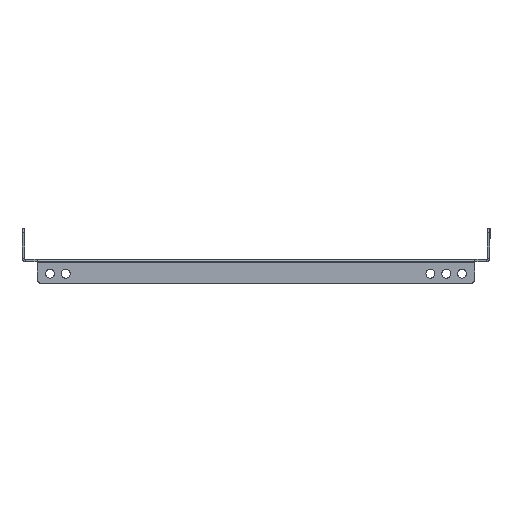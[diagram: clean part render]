
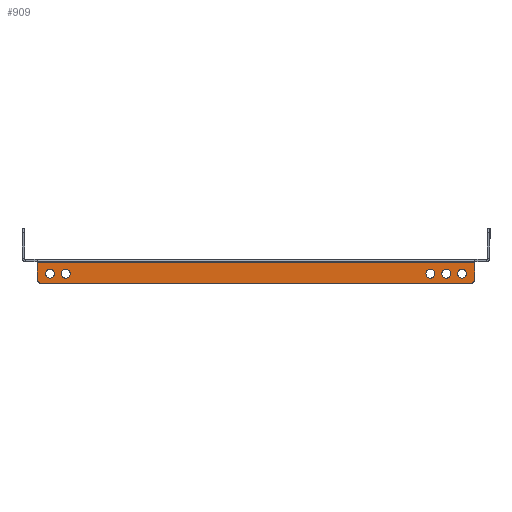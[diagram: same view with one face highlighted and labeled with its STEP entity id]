
A CAD part, left-side view. The second image highlights one B-rep face of the part: STEP entity #909.
In plain terms, the highlighted planar face has unit normal (-1, 0, 0).
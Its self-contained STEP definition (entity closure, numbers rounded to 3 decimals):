
#4 = DIRECTION ( 'NONE',  ( 1., 0., 0. ) ) ;
#15 = CARTESIAN_POINT ( 'NONE',  ( -450., -162.5, -13. ) ) ;
#59 = CARTESIAN_POINT ( 'NONE',  ( -450., -172.5, -0.6 ) ) ;
#60 = CARTESIAN_POINT ( 'NONE',  ( -450., 172.5, -0.6 ) ) ;
#90 = CIRCLE ( 'NONE', #2054, 3.5 ) ;
#103 = EDGE_LOOP ( 'NONE', ( #1429, #3051 ) ) ;
#152 = CARTESIAN_POINT ( 'NONE',  ( -450., 162.5, -13. ) ) ;
#167 = DIRECTION ( 'NONE',  ( -1., 0., 0. ) ) ;
#181 = EDGE_CURVE ( 'NONE', #4395, #3743, #1889, .T. ) ;
#193 = ORIENTED_EDGE ( 'NONE', *, *, #1314, .T. ) ;
#192 = DIRECTION ( 'NONE',  ( 0., 0., 1. ) ) ;
#297 = EDGE_CURVE ( 'NONE', #1070, #1934, #1598, .T. ) ;
#298 = CARTESIAN_POINT ( 'NONE',  ( -450., 162.5, -6. ) ) ;
#307 = CIRCLE ( 'NONE', #2192, 3. ) ;
#339 = FACE_BOUND ( 'NONE', #2333, .T. ) ;
#345 = CIRCLE ( 'NONE', #912, 3.5 ) ;
#351 = DIRECTION ( 'NONE',  ( -1., 0., 0. ) ) ;
#355 = DIRECTION ( 'NONE',  ( 0., 0., -1. ) ) ;
#365 = VECTOR ( 'NONE', #1606, 1000. ) ;
#376 = DIRECTION ( 'NONE',  ( -1., 0., 0. ) ) ;
#407 = FACE_BOUND ( 'NONE', #1322, .T. ) ;
#424 = FACE_BOUND ( 'NONE', #103, .T. ) ;
#462 = AXIS2_PLACEMENT_3D ( 'NONE', #1460, #1418, #2805 ) ;
#463 = DIRECTION ( 'NONE',  ( -1., 0., 0. ) ) ;
#466 = CARTESIAN_POINT ( 'NONE',  ( -450., -162.5, -9.5 ) ) ;
#512 = DIRECTION ( 'NONE',  ( -1., 0., 0. ) ) ;
#515 = AXIS2_PLACEMENT_3D ( 'NONE', #3012, #4482, #637 ) ;
#551 = CARTESIAN_POINT ( 'NONE',  ( -450., 172.5, -17. ) ) ;
#637 = DIRECTION ( 'NONE',  ( 0., 0., -1. ) ) ;
#645 = VERTEX_POINT ( 'NONE', #3233 ) ;
#737 = EDGE_CURVE ( 'NONE', #2087, #1358, #307, .T. ) ;
#802 = CARTESIAN_POINT ( 'NONE',  ( -450., 150., -9.5 ) ) ;
#841 = LINE ( 'NONE', #2233, #1564 ) ;
#852 = DIRECTION ( 'NONE',  ( 0., 0., -1. ) ) ;
#909 = ADVANCED_FACE ( 'NONE', ( #2431, #339, #407, #1107, #424, #1020 ), #1739, .T. ) ;
#912 = AXIS2_PLACEMENT_3D ( 'NONE', #466, #167, #852 ) ;
#929 = ORIENTED_EDGE ( 'NONE', *, *, #737, .T. ) ;
#994 = ORIENTED_EDGE ( 'NONE', *, *, #1348, .F. ) ;
#1007 = EDGE_CURVE ( 'NONE', #2829, #3188, #3131, .T. ) ;
#1020 = FACE_OUTER_BOUND ( 'NONE', #1489, .T. ) ;
#1049 = CIRCLE ( 'NONE', #1607, 3.5 ) ;
#1070 = VERTEX_POINT ( 'NONE', #3969 ) ;
#1072 = CARTESIAN_POINT ( 'NONE',  ( -450., -169.5, -17. ) ) ;
#1084 = LINE ( 'NONE', #4127, #3856 ) ;
#1107 = FACE_BOUND ( 'NONE', #2335, .T. ) ;
#1245 = CARTESIAN_POINT ( 'NONE',  ( -450., -150., -9.5 ) ) ;
#1277 = DIRECTION ( 'NONE',  ( 0., 1., 0. ) ) ;
#1290 = EDGE_CURVE ( 'NONE', #4350, #1358, #1084, .T. ) ;
#1314 = EDGE_CURVE ( 'NONE', #1934, #1070, #90, .T. ) ;
#1322 = EDGE_LOOP ( 'NONE', ( #1897, #3182 ) ) ;
#1346 = LINE ( 'NONE', #551, #2926 ) ;
#1348 = EDGE_CURVE ( 'NONE', #3188, #2829, #4072, .T. ) ;
#1358 = VERTEX_POINT ( 'NONE', #2818 ) ;
#1363 = DIRECTION ( 'NONE',  ( 0., 0., -1. ) ) ;
#1418 = DIRECTION ( 'NONE',  ( -1., 0., 0. ) ) ;
#1429 = ORIENTED_EDGE ( 'NONE', *, *, #2601, .F. ) ;
#1430 = EDGE_CURVE ( 'NONE', #3184, #1798, #1049, .T. ) ;
#1439 = CARTESIAN_POINT ( 'NONE',  ( -450., 172.5, 0. ) ) ;
#1460 = CARTESIAN_POINT ( 'NONE',  ( -450., 169.5, -14. ) ) ;
#1489 = EDGE_LOOP ( 'NONE', ( #2354, #929, #2863, #3596, #2178, #4106 ) ) ;
#1564 = VECTOR ( 'NONE', #3604, 1000. ) ;
#1598 = CIRCLE ( 'NONE', #4338, 3.5 ) ;
#1606 = DIRECTION ( 'NONE',  ( 0., 1., 0. ) ) ;
#1607 = AXIS2_PLACEMENT_3D ( 'NONE', #1245, #2300, #3672 ) ;
#1625 = AXIS2_PLACEMENT_3D ( 'NONE', #4464, #351, #1363 ) ;
#1677 = DIRECTION ( 'NONE',  ( 1., 0., 0. ) ) ;
#1717 = DIRECTION ( 'NONE',  ( -1., 0., 0. ) ) ;
#1733 = VERTEX_POINT ( 'NONE', #3873 ) ;
#1739 = PLANE ( 'NONE',  #2913 ) ;
#1798 = VERTEX_POINT ( 'NONE', #2918 ) ;
#1831 = ORIENTED_EDGE ( 'NONE', *, *, #1007, .F. ) ;
#1847 = CIRCLE ( 'NONE', #1994, 3.5 ) ;
#1889 = CIRCLE ( 'NONE', #515, 3.5 ) ;
#1890 = DIRECTION ( 'NONE',  ( 0., 0., 1. ) ) ;
#1897 = ORIENTED_EDGE ( 'NONE', *, *, #1430, .F. ) ;
#1934 = VERTEX_POINT ( 'NONE', #4356 ) ;
#1994 = AXIS2_PLACEMENT_3D ( 'NONE', #3468, #376, #3135 ) ;
#2054 = AXIS2_PLACEMENT_3D ( 'NONE', #3797, #4, #2077 ) ;
#2077 = DIRECTION ( 'NONE',  ( 0., 0., -1. ) ) ;
#2087 = VERTEX_POINT ( 'NONE', #1072 ) ;
#2109 = EDGE_CURVE ( 'NONE', #1733, #645, #2922, .T. ) ;
#2157 = VERTEX_POINT ( 'NONE', #60 ) ;
#2178 = ORIENTED_EDGE ( 'NONE', *, *, #3179, .F. ) ;
#2184 = EDGE_LOOP ( 'NONE', ( #193, #2666 ) ) ;
#2192 = AXIS2_PLACEMENT_3D ( 'NONE', #3292, #512, #192 ) ;
#2197 = CARTESIAN_POINT ( 'NONE',  ( -450., 162.5, -9.5 ) ) ;
#2233 = CARTESIAN_POINT ( 'NONE',  ( -450., 172.5, 0. ) ) ;
#2272 = EDGE_CURVE ( 'NONE', #3105, #3945, #3571, .T. ) ;
#2300 = DIRECTION ( 'NONE',  ( -1., 0., 0. ) ) ;
#2333 = EDGE_LOOP ( 'NONE', ( #3043, #3055 ) ) ;
#2335 = EDGE_LOOP ( 'NONE', ( #994, #1831 ) ) ;
#2354 = ORIENTED_EDGE ( 'NONE', *, *, #2445, .F. ) ;
#2393 = CARTESIAN_POINT ( 'NONE',  ( -450., -137.5, -9.5 ) ) ;
#2397 = CARTESIAN_POINT ( 'NONE',  ( -450., 172.5, -0.6 ) ) ;
#2412 = DIRECTION ( 'NONE',  ( 0., 0., -1. ) ) ;
#2431 = FACE_BOUND ( 'NONE', #2184, .T. ) ;
#2445 = EDGE_CURVE ( 'NONE', #2087, #645, #1346, .T. ) ;
#2601 = EDGE_CURVE ( 'NONE', #3945, #3105, #1847, .T. ) ;
#2612 = DIRECTION ( 'NONE',  ( 0., 0., 1. ) ) ;
#2666 = ORIENTED_EDGE ( 'NONE', *, *, #297, .T. ) ;
#2805 = DIRECTION ( 'NONE',  ( 0., 0., 1. ) ) ;
#2818 = CARTESIAN_POINT ( 'NONE',  ( -450., -172.5, -14. ) ) ;
#2829 = VERTEX_POINT ( 'NONE', #4367 ) ;
#2863 = ORIENTED_EDGE ( 'NONE', *, *, #1290, .F. ) ;
#2913 = AXIS2_PLACEMENT_3D ( 'NONE', #1439, #1717, #3117 ) ;
#2918 = CARTESIAN_POINT ( 'NONE',  ( -450., -150., -13. ) ) ;
#2922 = CIRCLE ( 'NONE', #462, 3. ) ;
#2926 = VECTOR ( 'NONE', #1277, 1000. ) ;
#2973 = EDGE_CURVE ( 'NONE', #1798, #3184, #4008, .T. ) ;
#3012 = CARTESIAN_POINT ( 'NONE',  ( -450., -162.5, -9.5 ) ) ;
#3043 = ORIENTED_EDGE ( 'NONE', *, *, #3364, .F. ) ;
#3051 = ORIENTED_EDGE ( 'NONE', *, *, #2272, .F. ) ;
#3055 = ORIENTED_EDGE ( 'NONE', *, *, #181, .F. ) ;
#3105 = VERTEX_POINT ( 'NONE', #152 ) ;
#3117 = DIRECTION ( 'NONE',  ( 0., 0., 1. ) ) ;
#3131 = CIRCLE ( 'NONE', #3199, 3.5 ) ;
#3135 = DIRECTION ( 'NONE',  ( 0., 0., 1. ) ) ;
#3156 = DIRECTION ( 'NONE',  ( 0., 0., 1. ) ) ;
#3179 = EDGE_CURVE ( 'NONE', #1733, #2157, #841, .T. ) ;
#3182 = ORIENTED_EDGE ( 'NONE', *, *, #2973, .F. ) ;
#3184 = VERTEX_POINT ( 'NONE', #3621 ) ;
#3188 = VERTEX_POINT ( 'NONE', #3965 ) ;
#3199 = AXIS2_PLACEMENT_3D ( 'NONE', #802, #463, #1890 ) ;
#3233 = CARTESIAN_POINT ( 'NONE',  ( -450., 169.5, -17. ) ) ;
#3292 = CARTESIAN_POINT ( 'NONE',  ( -450., -169.5, -14. ) ) ;
#3364 = EDGE_CURVE ( 'NONE', #3743, #4395, #345, .T. ) ;
#3397 = LINE ( 'NONE', #2397, #365 ) ;
#3468 = CARTESIAN_POINT ( 'NONE',  ( -450., 162.5, -9.5 ) ) ;
#3492 = DIRECTION ( 'NONE',  ( -1., 0., 0. ) ) ;
#3564 = DIRECTION ( 'NONE',  ( -1., 0., 0. ) ) ;
#3571 = CIRCLE ( 'NONE', #4220, 3.5 ) ;
#3596 = ORIENTED_EDGE ( 'NONE', *, *, #3814, .T. ) ;
#3604 = DIRECTION ( 'NONE',  ( 0., 0., 1. ) ) ;
#3621 = CARTESIAN_POINT ( 'NONE',  ( -450., -150., -6. ) ) ;
#3672 = DIRECTION ( 'NONE',  ( 0., 0., -1. ) ) ;
#3743 = VERTEX_POINT ( 'NONE', #3901 ) ;
#3797 = CARTESIAN_POINT ( 'NONE',  ( -450., -137.5, -9.5 ) ) ;
#3814 = EDGE_CURVE ( 'NONE', #4350, #2157, #3397, .T. ) ;
#3818 = CARTESIAN_POINT ( 'NONE',  ( -450., 150., -9.5 ) ) ;
#3856 = VECTOR ( 'NONE', #355, 1000. ) ;
#3873 = CARTESIAN_POINT ( 'NONE',  ( -450., 172.5, -14. ) ) ;
#3901 = CARTESIAN_POINT ( 'NONE',  ( -450., -162.5, -6. ) ) ;
#3945 = VERTEX_POINT ( 'NONE', #298 ) ;
#3965 = CARTESIAN_POINT ( 'NONE',  ( -450., 150., -6. ) ) ;
#3969 = CARTESIAN_POINT ( 'NONE',  ( -450., -137.5, -6. ) ) ;
#4008 = CIRCLE ( 'NONE', #1625, 3.5 ) ;
#4072 = CIRCLE ( 'NONE', #4351, 3.5 ) ;
#4106 = ORIENTED_EDGE ( 'NONE', *, *, #2109, .T. ) ;
#4127 = CARTESIAN_POINT ( 'NONE',  ( -450., -172.5, -17. ) ) ;
#4220 = AXIS2_PLACEMENT_3D ( 'NONE', #2197, #3564, #2612 ) ;
#4338 = AXIS2_PLACEMENT_3D ( 'NONE', #2393, #1677, #2412 ) ;
#4350 = VERTEX_POINT ( 'NONE', #59 ) ;
#4351 = AXIS2_PLACEMENT_3D ( 'NONE', #3818, #3492, #3156 ) ;
#4356 = CARTESIAN_POINT ( 'NONE',  ( -450., -137.5, -13. ) ) ;
#4367 = CARTESIAN_POINT ( 'NONE',  ( -450., 150., -13. ) ) ;
#4395 = VERTEX_POINT ( 'NONE', #15 ) ;
#4464 = CARTESIAN_POINT ( 'NONE',  ( -450., -150., -9.5 ) ) ;
#4482 = DIRECTION ( 'NONE',  ( -1., 0., 0. ) ) ;
